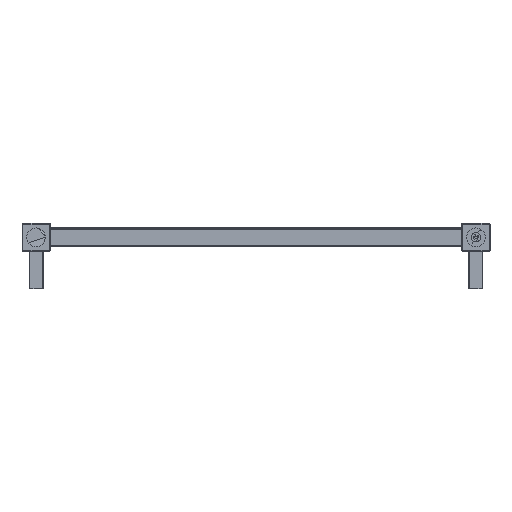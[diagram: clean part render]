
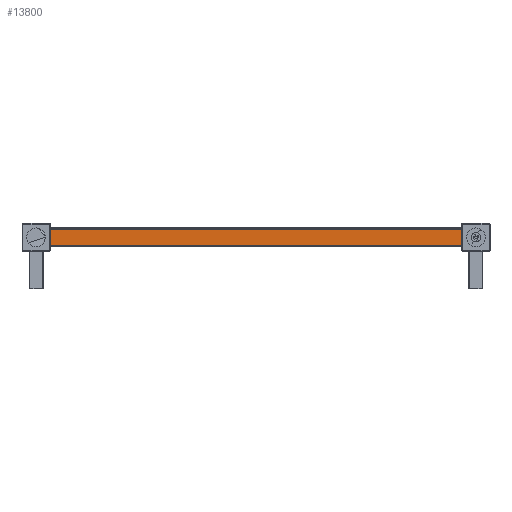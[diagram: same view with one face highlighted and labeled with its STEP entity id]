
A CAD part, front view. The second image highlights one B-rep face of the part: STEP entity #13800.
In plain terms, the highlighted planar face has unit normal (0, -1, 0).
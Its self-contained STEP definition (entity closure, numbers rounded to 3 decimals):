
#944 = DIRECTION ( 'NONE',  ( 0., 0., 1. ) ) ;
#1034 = LINE ( 'NONE', #14111, #9201 ) ;
#1197 = CARTESIAN_POINT ( 'NONE',  ( -220., -10., -9.5 ) ) ;
#1322 = VECTOR ( 'NONE', #3696, 1000. ) ;
#1840 = ORIENTED_EDGE ( 'NONE', *, *, #5465, .T. ) ;
#2595 = VERTEX_POINT ( 'NONE', #9946 ) ;
#3177 = ORIENTED_EDGE ( 'NONE', *, *, #9191, .T. ) ;
#3696 = DIRECTION ( 'NONE',  ( 0., 0., -1. ) ) ;
#3755 = VECTOR ( 'NONE', #14631, 1000. ) ;
#4158 = LINE ( 'NONE', #8011, #3755 ) ;
#4731 = DIRECTION ( 'NONE',  ( 0., 1., 0. ) ) ;
#5243 = EDGE_LOOP ( 'NONE', ( #3177, #1840, #13413, #15374 ) ) ;
#5465 = EDGE_CURVE ( 'NONE', #11905, #11557, #13493, .T. ) ;
#6614 = DIRECTION ( 'NONE',  ( 1., 0., 0. ) ) ;
#7658 = PLANE ( 'NONE',  #11416 ) ;
#7732 = CARTESIAN_POINT ( 'NONE',  ( -220., -10., 9.5 ) ) ;
#8011 = CARTESIAN_POINT ( 'NONE',  ( 220., -10., 9.5 ) ) ;
#8814 = CARTESIAN_POINT ( 'NONE',  ( 220., -10., -10. ) ) ;
#8943 = DIRECTION ( 'NONE',  ( 0., 0., -1. ) ) ;
#9191 = EDGE_CURVE ( 'NONE', #12558, #11905, #1034, .T. ) ;
#9201 = VECTOR ( 'NONE', #8943, 1000. ) ;
#9522 = CARTESIAN_POINT ( 'NONE',  ( 220., -10., -9.5 ) ) ;
#9946 = CARTESIAN_POINT ( 'NONE',  ( 220., -10., 9.5 ) ) ;
#10196 = LINE ( 'NONE', #8814, #1322 ) ;
#10235 = CARTESIAN_POINT ( 'NONE',  ( 220., -10., -10. ) ) ;
#11416 = AXIS2_PLACEMENT_3D ( 'NONE', #10235, #4731, #944 ) ;
#11557 = VERTEX_POINT ( 'NONE', #15476 ) ;
#11905 = VERTEX_POINT ( 'NONE', #1197 ) ;
#12558 = VERTEX_POINT ( 'NONE', #7732 ) ;
#12662 = EDGE_CURVE ( 'NONE', #2595, #11557, #10196, .T. ) ;
#13056 = VECTOR ( 'NONE', #6614, 1000. ) ;
#13413 = ORIENTED_EDGE ( 'NONE', *, *, #12662, .F. ) ;
#13493 = LINE ( 'NONE', #9522, #13056 ) ;
#13687 = EDGE_CURVE ( 'NONE', #2595, #12558, #4158, .T. ) ;
#13800 = ADVANCED_FACE ( 'NONE', ( #16661 ), #7658, .F. ) ;
#14111 = CARTESIAN_POINT ( 'NONE',  ( -220., -10., -10. ) ) ;
#14631 = DIRECTION ( 'NONE',  ( -1., 0., 0. ) ) ;
#15374 = ORIENTED_EDGE ( 'NONE', *, *, #13687, .T. ) ;
#15476 = CARTESIAN_POINT ( 'NONE',  ( 220., -10., -9.5 ) ) ;
#16661 = FACE_OUTER_BOUND ( 'NONE', #5243, .T. ) ;
